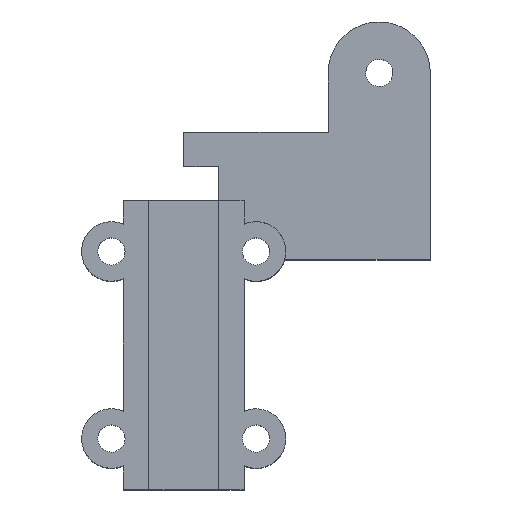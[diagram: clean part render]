
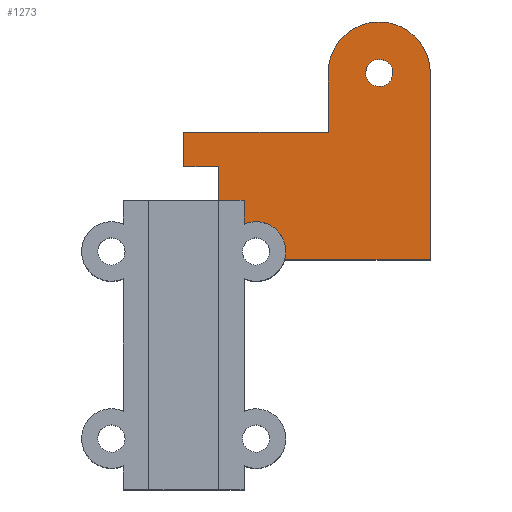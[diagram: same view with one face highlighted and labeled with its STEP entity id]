
A CAD part, top view. The second image highlights one B-rep face of the part: STEP entity #1273.
In plain terms, the highlighted free-form (B-spline) face has degree [1, 1] with [2, 2] control points.
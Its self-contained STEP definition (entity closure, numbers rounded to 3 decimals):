
#10 = VERTEX_POINT('', #11);
#11 = CARTESIAN_POINT('', (101.675, 132., -0.7));
#16 = EDGE_CURVE('', #17, #10, #19, .T.);
#17 = VERTEX_POINT('', #18);
#18 = CARTESIAN_POINT('', (113.675, 132., -0.7));
#19 = (
   BOUNDED_CURVE ()
   B_SPLINE_CURVE (2, (#20, #21, #22, #23, #24), .UNSPECIFIED., .F., .U.)
   B_SPLINE_CURVE_WITH_KNOTS ((3, 2, 3), (0., 9.425, 18.85), .UNSPECIFIED.)
   CURVE ()
   GEOMETRIC_REPRESENTATION_ITEM ()
   RATIONAL_B_SPLINE_CURVE ((1., 0.707, 1., 0.707, 1.))
   REPRESENTATION_ITEM ('')
);
#20 = CARTESIAN_POINT('', (113.675, 132., -0.7));
#21 = CARTESIAN_POINT('', (113.675, 138., -0.7));
#22 = CARTESIAN_POINT('', (107.675, 138., -0.7));
#23 = CARTESIAN_POINT('', (101.675, 138., -0.7));
#24 = CARTESIAN_POINT('', (101.675, 132., -0.7));
#202 = VERTEX_POINT('', #203);
#203 = CARTESIAN_POINT('', (96.529, 110., -0.7));
#208 = EDGE_CURVE('', #202, #209, #211, .T.);
#209 = VERTEX_POINT('', #210);
#210 = CARTESIAN_POINT('', (96.675, 111., -0.7));
#211 = (
   BOUNDED_CURVE ()
   B_SPLINE_CURVE (2, (#212, #213, #214), .UNSPECIFIED., .F., .U.)
   B_SPLINE_CURVE_WITH_KNOTS ((3, 3), (0., 1.), .UNSPECIFIED.)
   CURVE ()
   GEOMETRIC_REPRESENTATION_ITEM ()
   RATIONAL_B_SPLINE_CURVE ((1., 0.99, 1.))
   REPRESENTATION_ITEM ('')
);
#212 = CARTESIAN_POINT('', (96.529, 110., -0.7));
#213 = CARTESIAN_POINT('', (96.675, 110.489, -0.7));
#214 = CARTESIAN_POINT('', (96.675, 111., -0.7));
#254 = VERTEX_POINT('', #255);
#255 = CARTESIAN_POINT('', (91.775, 114.208, -0.7));
#271 = EDGE_CURVE('', #209, #254, #272, .T.);
#272 = (
   BOUNDED_CURVE ()
   B_SPLINE_CURVE (2, (#273, #274, #275, #276, #277), .UNSPECIFIED., .F., .U.)
   B_SPLINE_CURVE_WITH_KNOTS ((3, 2, 3), (0., 0.288, 0.576), .UNSPECIFIED.)
   CURVE ()
   GEOMETRIC_REPRESENTATION_ITEM ()
   RATIONAL_B_SPLINE_CURVE ((1., 0.88, 1., 0.88, 1.))
   REPRESENTATION_ITEM ('')
);
#273 = CARTESIAN_POINT('', (96.675, 111., -0.7));
#274 = CARTESIAN_POINT('', (96.675, 112.892, -0.7));
#275 = CARTESIAN_POINT('', (95.092, 113.928, -0.7));
#276 = CARTESIAN_POINT('', (93.509, 114.965, -0.7));
#277 = CARTESIAN_POINT('', (91.775, 114.208, -0.7));
#704 = VERTEX_POINT('', #705);
#705 = CARTESIAN_POINT('', (101.675, 125., -0.7));
#710 = EDGE_CURVE('', #704, #10, #711, .T.);
#711 = B_SPLINE_CURVE_WITH_KNOTS('', 1, (#712, #713), .UNSPECIFIED., .F., .U., (2, 2), (3., 10.), .UNSPECIFIED.);
#712 = CARTESIAN_POINT('', (101.675, 125., -0.7));
#713 = CARTESIAN_POINT('', (101.675, 132., -0.7));
#842 = EDGE_CURVE('', #843, #17, #845, .T.);
#843 = VERTEX_POINT('', #844);
#844 = CARTESIAN_POINT('', (113.675, 110., -0.7));
#845 = B_SPLINE_CURVE_WITH_KNOTS('', 1, (#846, #847), .UNSPECIFIED., .F., .U., (2, 2), (0., 1.467), .UNSPECIFIED.);
#846 = CARTESIAN_POINT('', (113.675, 110., -0.7));
#847 = CARTESIAN_POINT('', (113.675, 132., -0.7));
#884 = VERTEX_POINT('', #885);
#885 = CARTESIAN_POINT('', (84.675, 125., -0.7));
#890 = EDGE_CURVE('', #884, #704, #891, .T.);
#891 = B_SPLINE_CURVE_WITH_KNOTS('', 1, (#892, #893), .UNSPECIFIED., .F., .U., (2, 2), (0., 17.), .UNSPECIFIED.);
#892 = CARTESIAN_POINT('', (84.675, 125., -0.7));
#893 = CARTESIAN_POINT('', (101.675, 125., -0.7));
#964 = EDGE_CURVE('', #202, #843, #965, .T.);
#965 = B_SPLINE_CURVE_WITH_KNOTS('', 1, (#966, #967), .UNSPECIFIED., .F., .U., (2, 2), (11.854, 29.), .UNSPECIFIED.);
#966 = CARTESIAN_POINT('', (96.529, 110., -0.7));
#967 = CARTESIAN_POINT('', (113.675, 110., -0.7));
#1000 = EDGE_CURVE('', #1001, #254, #1003, .T.);
#1001 = VERTEX_POINT('', #1002);
#1002 = CARTESIAN_POINT('', (91.775, 117., -0.7));
#1003 = B_SPLINE_CURVE_WITH_KNOTS('', 1, (#1004, #1005), .UNSPECIFIED., .F., .U., (2, 2), (0., 0.399), .UNSPECIFIED.);
#1004 = CARTESIAN_POINT('', (91.775, 117., -0.7));
#1005 = CARTESIAN_POINT('', (91.775, 114.208, -0.7));
#1074 = VERTEX_POINT('', #1075);
#1075 = CARTESIAN_POINT('', (88.775, 117., -0.7));
#1086 = EDGE_CURVE('', #1074, #1001, #1087, .T.);
#1087 = B_SPLINE_CURVE_WITH_KNOTS('', 1, (#1088, #1089), .UNSPECIFIED., .F., .U., (2, 2), (0.577, 1.), .UNSPECIFIED.);
#1088 = CARTESIAN_POINT('', (88.775, 117., -0.7));
#1089 = CARTESIAN_POINT('', (91.775, 117., -0.7));
#1144 = VERTEX_POINT('', #1145);
#1145 = CARTESIAN_POINT('', (84.675, 121., -0.7));
#1152 = EDGE_CURVE('', #1144, #884, #1153, .T.);
#1153 = B_SPLINE_CURVE_WITH_KNOTS('', 1, (#1154, #1155), .UNSPECIFIED., .F., .U., (2, 2), (11., 15.), .UNSPECIFIED.);
#1154 = CARTESIAN_POINT('', (84.675, 121., -0.7));
#1155 = CARTESIAN_POINT('', (84.675, 125., -0.7));
#1273 = ADVANCED_FACE('', (#1274, #1298), #1314, .T.);
#1274 = FACE_OUTER_BOUND('', #1275, .T.);
#1275 = EDGE_LOOP('', (#1276, #1283, #1288, #1289, #1290, #1291, #1292, #1293, #1294, #1295, #1296, #1297));
#1276 = ORIENTED_EDGE('', *, *, #1277, .F.);
#1277 = EDGE_CURVE('', #1278, #1144, #1280, .T.);
#1278 = VERTEX_POINT('', #1279);
#1279 = CARTESIAN_POINT('', (88.775, 121., -0.7));
#1280 = B_SPLINE_CURVE_WITH_KNOTS('', 1, (#1281, #1282), .UNSPECIFIED., .F., .U., (2, 2), (0., 1.), .UNSPECIFIED.);
#1281 = CARTESIAN_POINT('', (88.775, 121., -0.7));
#1282 = CARTESIAN_POINT('', (84.675, 121., -0.7));
#1283 = ORIENTED_EDGE('', *, *, #1284, .F.);
#1284 = EDGE_CURVE('', #1074, #1278, #1285, .T.);
#1285 = B_SPLINE_CURVE_WITH_KNOTS('', 1, (#1286, #1287), .UNSPECIFIED., .F., .U., (2, 2), (0.636, 1.), .UNSPECIFIED.);
#1286 = CARTESIAN_POINT('', (88.775, 117., -0.7));
#1287 = CARTESIAN_POINT('', (88.775, 121., -0.7));
#1288 = ORIENTED_EDGE('', *, *, #1086, .T.);
#1289 = ORIENTED_EDGE('', *, *, #1000, .T.);
#1290 = ORIENTED_EDGE('', *, *, #271, .F.);
#1291 = ORIENTED_EDGE('', *, *, #208, .F.);
#1292 = ORIENTED_EDGE('', *, *, #964, .T.);
#1293 = ORIENTED_EDGE('', *, *, #842, .T.);
#1294 = ORIENTED_EDGE('', *, *, #16, .T.);
#1295 = ORIENTED_EDGE('', *, *, #710, .F.);
#1296 = ORIENTED_EDGE('', *, *, #890, .F.);
#1297 = ORIENTED_EDGE('', *, *, #1152, .F.);
#1298 = FACE_BOUND('', #1299, .T.);
#1299 = EDGE_LOOP('', (#1300));
#1300 = ORIENTED_EDGE('', *, *, #1301, .F.);
#1301 = EDGE_CURVE('', #1302, #1302, #1304, .T.);
#1302 = VERTEX_POINT('', #1303);
#1303 = CARTESIAN_POINT('', (109.275, 132., -0.7));
#1304 = (
   BOUNDED_CURVE ()
   B_SPLINE_CURVE (2, (#1305, #1306, #1307, #1308, #1309, #1310, #1311, #1312, #1313), .UNSPECIFIED., .T., .U.)
   B_SPLINE_CURVE_WITH_KNOTS ((3, 2, 2, 2, 3), (0., 0.25, 0.5, 0.75, 1.), .UNSPECIFIED.)
   CURVE ()
   GEOMETRIC_REPRESENTATION_ITEM ()
   RATIONAL_B_SPLINE_CURVE ((1., 0.707, 1., 0.707, 1., 0.707, 1., 0.707, 1.))
   REPRESENTATION_ITEM ('')
);
#1305 = CARTESIAN_POINT('', (109.275, 132., -0.7));
#1306 = CARTESIAN_POINT('', (109.275, 133.6, -0.7));
#1307 = CARTESIAN_POINT('', (107.675, 133.6, -0.7));
#1308 = CARTESIAN_POINT('', (106.075, 133.6, -0.7));
#1309 = CARTESIAN_POINT('', (106.075, 132., -0.7));
#1310 = CARTESIAN_POINT('', (106.075, 130.4, -0.7));
#1311 = CARTESIAN_POINT('', (107.675, 130.4, -0.7));
#1312 = CARTESIAN_POINT('', (109.275, 130.4, -0.7));
#1313 = CARTESIAN_POINT('', (109.275, 132., -0.7));
#1314 = B_SPLINE_SURFACE_WITH_KNOTS('', 1, 1, ((#1315, #1316), (#1317, #1318)), .UNSPECIFIED., .F., .F., .U., (2, 2), (2, 2), (0., 32.334), (0., 31.334), .UNSPECIFIED.);
#1315 = CARTESIAN_POINT('', (84.675, 110., -0.7));
#1316 = CARTESIAN_POINT('', (84.675, 141.334, -0.7));
#1317 = CARTESIAN_POINT('', (117.009, 110., -0.7));
#1318 = CARTESIAN_POINT('', (117.009, 141.334, -0.7));
